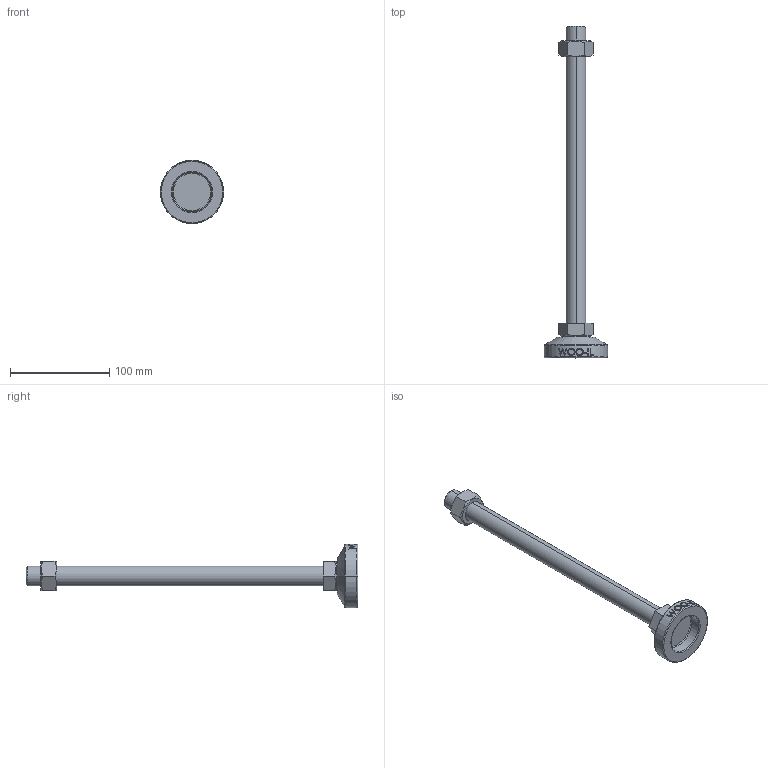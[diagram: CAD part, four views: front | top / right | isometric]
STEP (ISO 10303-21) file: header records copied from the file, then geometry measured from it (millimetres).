
FILE_DESCRIPTION (( 'STEP AP214' ), '1' );
FILE_NAME ('MFZ64-M20-300.step', '2021-01-15T07:07:31', ( '' ), ( '' ), 'SwSTEP 2.0', 'SolidWorks 2019', '' );
FILE_SCHEMA (( 'AUTOMOTIVE_DESIGN' ));
Length unit declared in the file: millimetre
Products named in the file (2): MFZ64-M20-300
Bounding box: 64 x 335 x 64 mm (x, y, z)
Volume: 156036.7 mm3; surface area: 35820.9 mm2
Topology: 3 solids, 3 shells, 106 faces, 243 edges, 154 vertices
Faces by surface type: plane 48, cylinder 18, bspline 16, cone 14, torus 10
Entity records: 4532 total; most frequent: CARTESIAN_POINT 2189, ORIENTED_EDGE 486, DIRECTION 439, EDGE_CURVE 243, AXIS2_PLACEMENT_3D 170, VERTEX_POINT 154, EDGE_LOOP 119, ADVANCED_FACE 106
